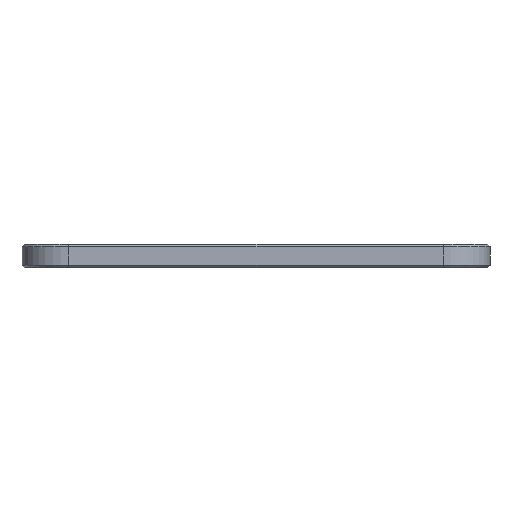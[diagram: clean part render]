
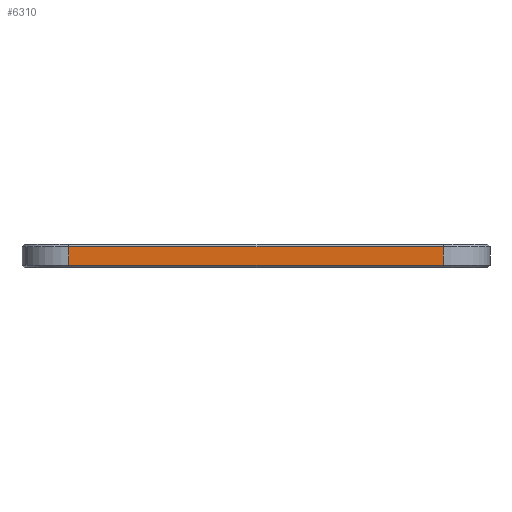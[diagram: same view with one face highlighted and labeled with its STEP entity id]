
A CAD part, left-side view. The second image highlights one B-rep face of the part: STEP entity #6310.
In plain terms, the highlighted planar face has unit normal (-1, 0, 0).
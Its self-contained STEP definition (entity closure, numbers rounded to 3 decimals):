
#395 = EDGE_CURVE ( 'NONE', #49541, #41972, #22921, .T. ) ;
#1938 = CARTESIAN_POINT ( 'NONE',  ( -50., -70., 1. ) ) ;
#2967 = DIRECTION ( 'NONE',  ( -1., 0., 0. ) ) ;
#3985 = CARTESIAN_POINT ( 'NONE',  ( -50., 110., 1. ) ) ;
#4648 = VECTOR ( 'NONE', #39923, 1000. ) ;
#4900 = VECTOR ( 'NONE', #7003, 1000. ) ;
#6310 = ADVANCED_FACE ( 'NONE', ( #36952 ), #44145, .T. ) ;
#7003 = DIRECTION ( 'NONE',  ( 0., 0., 1. ) ) ;
#9508 = ORIENTED_EDGE ( 'NONE', *, *, #395, .T. ) ;
#9928 = CARTESIAN_POINT ( 'NONE',  ( -50., -50., 9. ) ) ;
#12188 = EDGE_CURVE ( 'NONE', #37518, #32250, #48831, .T. ) ;
#12238 = CARTESIAN_POINT ( 'NONE',  ( -50., 110., 10. ) ) ;
#15636 = LINE ( 'NONE', #19113, #4648 ) ;
#17639 = VECTOR ( 'NONE', #35045, 1000. ) ;
#19113 = CARTESIAN_POINT ( 'NONE',  ( -50., 110., 9. ) ) ;
#19702 = AXIS2_PLACEMENT_3D ( 'NONE', #27746, #2967, #31916 ) ;
#21596 = VECTOR ( 'NONE', #33215, 1000. ) ;
#22286 = ORIENTED_EDGE ( 'NONE', *, *, #27526, .T. ) ;
#22921 = LINE ( 'NONE', #12238, #21596 ) ;
#23678 = CARTESIAN_POINT ( 'NONE',  ( -50., -50., 1. ) ) ;
#25103 = CARTESIAN_POINT ( 'NONE',  ( -50., -50., 10. ) ) ;
#27526 = EDGE_CURVE ( 'NONE', #41972, #37518, #49285, .T. ) ;
#27746 = CARTESIAN_POINT ( 'NONE',  ( -50., -70., 10. ) ) ;
#31916 = DIRECTION ( 'NONE',  ( 0., 0., 1. ) ) ;
#32250 = VERTEX_POINT ( 'NONE', #9928 ) ;
#33215 = DIRECTION ( 'NONE',  ( 0., 0., -1. ) ) ;
#35045 = DIRECTION ( 'NONE',  ( 0., -1., 0. ) ) ;
#36521 = EDGE_CURVE ( 'NONE', #32250, #49541, #15636, .T. ) ;
#36952 = FACE_OUTER_BOUND ( 'NONE', #45237, .T. ) ;
#37518 = VERTEX_POINT ( 'NONE', #23678 ) ;
#39253 = ORIENTED_EDGE ( 'NONE', *, *, #36521, .T. ) ;
#39923 = DIRECTION ( 'NONE',  ( 0., 1., 0. ) ) ;
#41484 = CARTESIAN_POINT ( 'NONE',  ( -50., 110., 9. ) ) ;
#41972 = VERTEX_POINT ( 'NONE', #3985 ) ;
#44145 = PLANE ( 'NONE',  #19702 ) ;
#45237 = EDGE_LOOP ( 'NONE', ( #9508, #22286, #46420, #39253 ) ) ;
#46420 = ORIENTED_EDGE ( 'NONE', *, *, #12188, .T. ) ;
#48831 = LINE ( 'NONE', #25103, #4900 ) ;
#49285 = LINE ( 'NONE', #1938, #17639 ) ;
#49541 = VERTEX_POINT ( 'NONE', #41484 ) ;
